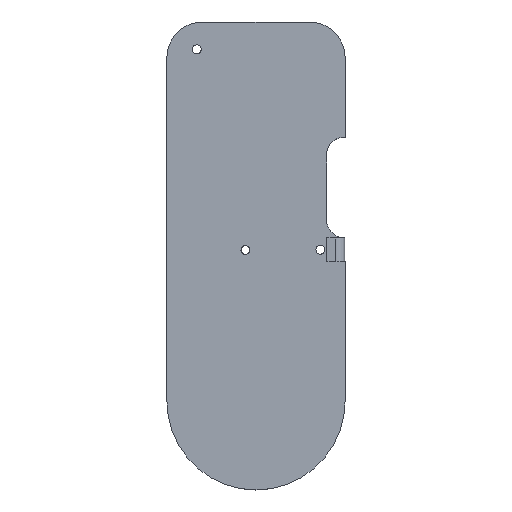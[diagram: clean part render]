
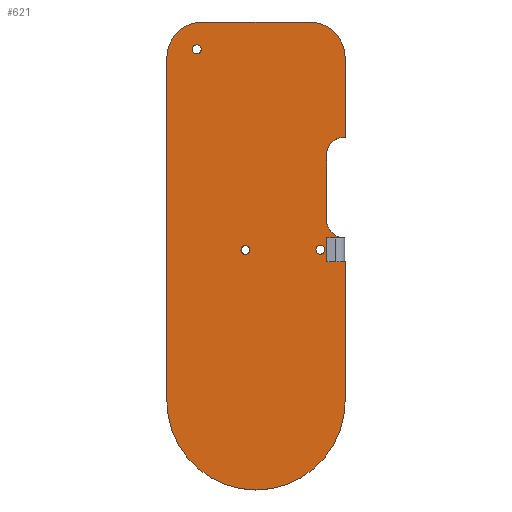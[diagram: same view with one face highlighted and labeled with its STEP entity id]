
A CAD part, top view. The second image highlights one B-rep face of the part: STEP entity #621.
In plain terms, the highlighted planar face has unit normal (0, 0, 1).
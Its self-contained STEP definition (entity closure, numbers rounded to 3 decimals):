
#26=FACE_BOUND('',#102,.T.);
#27=FACE_BOUND('',#103,.T.);
#28=FACE_BOUND('',#104,.T.);
#41=PLANE('',#688);
#60=FACE_OUTER_BOUND('',#101,.T.);
#101=EDGE_LOOP('',(#485,#486,#487,#488,#489,#490,#491,#492,#493,#494,#495,
#496,#497,#498,#499));
#102=EDGE_LOOP('',(#500));
#103=EDGE_LOOP('',(#501));
#104=EDGE_LOOP('',(#502));
#135=LINE('',#976,#187);
#146=LINE('',#1016,#198);
#154=LINE('',#1033,#206);
#156=LINE('',#1037,#208);
#157=LINE('',#1040,#209);
#159=LINE('',#1045,#211);
#160=LINE('',#1048,#212);
#161=LINE('',#1052,#213);
#162=LINE('',#1056,#214);
#163=LINE('',#1059,#215);
#187=VECTOR('',#755,10.);
#198=VECTOR('',#790,10.);
#206=VECTOR('',#806,10.);
#208=VECTOR('',#812,10.);
#209=VECTOR('',#815,10.);
#211=VECTOR('',#821,10.);
#212=VECTOR('',#824,10.);
#213=VECTOR('',#827,10.);
#214=VECTOR('',#830,10.);
#215=VECTOR('',#833,10.);
#235=CIRCLE('',#661,5.);
#236=CIRCLE('',#663,5.);
#247=CIRCLE('',#689,10.);
#248=CIRCLE('',#690,10.);
#249=CIRCLE('',#691,25.);
#250=CIRCLE('',#692,1.25);
#251=CIRCLE('',#693,1.25);
#252=CIRCLE('',#694,1.25);
#269=VERTEX_POINT('',#937);
#270=VERTEX_POINT('',#939);
#274=VERTEX_POINT('',#964);
#275=VERTEX_POINT('',#966);
#278=VERTEX_POINT('',#974);
#295=VERTEX_POINT('',#1015);
#297=VERTEX_POINT('',#1021);
#300=VERTEX_POINT('',#1031);
#301=VERTEX_POINT('',#1039);
#303=VERTEX_POINT('',#1047);
#304=VERTEX_POINT('',#1049);
#305=VERTEX_POINT('',#1051);
#306=VERTEX_POINT('',#1053);
#307=VERTEX_POINT('',#1055);
#308=VERTEX_POINT('',#1057);
#309=VERTEX_POINT('',#1060);
#310=VERTEX_POINT('',#1062);
#311=VERTEX_POINT('',#1064);
#325=EDGE_CURVE('',#270,#269,#235,.F.);
#330=EDGE_CURVE('',#274,#275,#236,.T.);
#335=EDGE_CURVE('',#274,#278,#135,.T.);
#355=EDGE_CURVE('',#295,#270,#146,.T.);
#364=EDGE_CURVE('',#297,#300,#154,.T.);
#366=EDGE_CURVE('',#300,#295,#156,.T.);
#367=EDGE_CURVE('',#301,#297,#157,.T.);
#370=EDGE_CURVE('',#269,#275,#159,.T.);
#371=EDGE_CURVE('',#278,#303,#160,.T.);
#372=EDGE_CURVE('',#303,#304,#247,.T.);
#373=EDGE_CURVE('',#304,#305,#161,.T.);
#374=EDGE_CURVE('',#305,#306,#248,.T.);
#375=EDGE_CURVE('',#306,#307,#162,.T.);
#376=EDGE_CURVE('',#307,#308,#249,.T.);
#377=EDGE_CURVE('',#308,#301,#163,.T.);
#378=EDGE_CURVE('',#309,#309,#250,.T.);
#379=EDGE_CURVE('',#310,#310,#251,.T.);
#380=EDGE_CURVE('',#311,#311,#252,.T.);
#485=ORIENTED_EDGE('',*,*,#367,.T.);
#486=ORIENTED_EDGE('',*,*,#364,.T.);
#487=ORIENTED_EDGE('',*,*,#366,.T.);
#488=ORIENTED_EDGE('',*,*,#355,.T.);
#489=ORIENTED_EDGE('',*,*,#325,.T.);
#490=ORIENTED_EDGE('',*,*,#370,.T.);
#491=ORIENTED_EDGE('',*,*,#330,.F.);
#492=ORIENTED_EDGE('',*,*,#335,.T.);
#493=ORIENTED_EDGE('',*,*,#371,.T.);
#494=ORIENTED_EDGE('',*,*,#372,.T.);
#495=ORIENTED_EDGE('',*,*,#373,.T.);
#496=ORIENTED_EDGE('',*,*,#374,.T.);
#497=ORIENTED_EDGE('',*,*,#375,.T.);
#498=ORIENTED_EDGE('',*,*,#376,.T.);
#499=ORIENTED_EDGE('',*,*,#377,.T.);
#500=ORIENTED_EDGE('',*,*,#378,.T.);
#501=ORIENTED_EDGE('',*,*,#379,.T.);
#502=ORIENTED_EDGE('',*,*,#380,.T.);
#621=ADVANCED_FACE('',(#60,#26,#27,#28),#41,.T.);
#661=AXIS2_PLACEMENT_3D('',#940,#739,#740);
#663=AXIS2_PLACEMENT_3D('',#967,#745,#746);
#688=AXIS2_PLACEMENT_3D('',#1046,#822,#823);
#689=AXIS2_PLACEMENT_3D('',#1050,#825,#826);
#690=AXIS2_PLACEMENT_3D('',#1054,#828,#829);
#691=AXIS2_PLACEMENT_3D('',#1058,#831,#832);
#692=AXIS2_PLACEMENT_3D('',#1061,#834,#835);
#693=AXIS2_PLACEMENT_3D('',#1063,#836,#837);
#694=AXIS2_PLACEMENT_3D('',#1065,#838,#839);
#739=DIRECTION('center_axis',(0.,0.,1.));
#740=DIRECTION('ref_axis',(-0.705,-0.709,0.));
#745=DIRECTION('center_axis',(0.,0.,1.));
#746=DIRECTION('ref_axis',(-0.709,0.705,0.));
#755=DIRECTION('',(1.,0.002,0.));
#790=DIRECTION('',(1.,0.002,0.));
#806=DIRECTION('',(-1.,-0.002,0.));
#812=DIRECTION('',(-0.002,1.,0.));
#815=DIRECTION('',(-1.,-0.002,0.));
#821=DIRECTION('',(-0.002,1.,0.));
#822=DIRECTION('center_axis',(0.,0.,1.));
#823=DIRECTION('ref_axis',(1.,0.,0.));
#824=DIRECTION('',(0.,1.,0.));
#825=DIRECTION('center_axis',(0.,0.,1.));
#826=DIRECTION('ref_axis',(1.,0.,0.));
#827=DIRECTION('',(-1.,0.,0.));
#828=DIRECTION('center_axis',(0.,0.,1.));
#829=DIRECTION('ref_axis',(0.,1.,0.));
#830=DIRECTION('',(0.,-1.,0.));
#831=DIRECTION('center_axis',(0.,0.,1.));
#832=DIRECTION('ref_axis',(1.,0.,0.));
#833=DIRECTION('',(0.,1.,0.));
#834=DIRECTION('center_axis',(0.,0.,-1.));
#835=DIRECTION('ref_axis',(-1.,0.,0.));
#836=DIRECTION('center_axis',(0.,0.,-1.));
#837=DIRECTION('ref_axis',(-1.,0.,0.));
#838=DIRECTION('center_axis',(0.,0.,-1.));
#839=DIRECTION('ref_axis',(-1.,0.,0.));
#937=CARTESIAN_POINT('',(29.912,50.692,5.));
#939=CARTESIAN_POINT('',(34.924,45.704,5.));
#940=CARTESIAN_POINT('Origin',(34.912,50.704,5.));
#964=CARTESIAN_POINT('',(34.857,74.014,5.));
#966=CARTESIAN_POINT('',(29.869,69.002,5.));
#967=CARTESIAN_POINT('Origin',(34.869,69.014,5.));
#974=CARTESIAN_POINT('',(35.076,74.014,5.));
#976=CARTESIAN_POINT('',(21.392,73.982,5.));
#1015=CARTESIAN_POINT('',(29.924,45.692,5.));
#1016=CARTESIAN_POINT('',(29.924,45.692,5.));
#1021=CARTESIAN_POINT('',(34.94,39.014,5.));
#1031=CARTESIAN_POINT('',(29.94,39.002,5.));
#1033=CARTESIAN_POINT('',(21.475,38.982,5.));
#1037=CARTESIAN_POINT('',(29.938,39.854,5.));
#1039=CARTESIAN_POINT('',(35.076,39.014,5.));
#1040=CARTESIAN_POINT('',(21.475,38.982,5.));
#1045=CARTESIAN_POINT('',(29.938,39.854,5.));
#1046=CARTESIAN_POINT('Origin',(10.076,40.659,5.));
#1047=CARTESIAN_POINT('',(35.076,96.308,5.));
#1048=CARTESIAN_POINT('',(35.076,96.308,5.));
#1049=CARTESIAN_POINT('',(25.076,106.308,5.));
#1050=CARTESIAN_POINT('Origin',(25.076,96.308,5.));
#1051=CARTESIAN_POINT('',(-4.924,106.308,5.));
#1052=CARTESIAN_POINT('',(-4.924,106.308,5.));
#1053=CARTESIAN_POINT('',(-14.924,96.308,5.));
#1054=CARTESIAN_POINT('Origin',(-4.924,96.308,5.));
#1055=CARTESIAN_POINT('',(-14.924,0.009,5.));
#1056=CARTESIAN_POINT('',(-14.924,96.308,5.));
#1057=CARTESIAN_POINT('',(35.076,0.009,5.));
#1058=CARTESIAN_POINT('Origin',(10.076,0.009,5.));
#1059=CARTESIAN_POINT('',(35.076,96.308,5.));
#1060=CARTESIAN_POINT('',(-5.281,98.658,5.));
#1061=CARTESIAN_POINT('Origin',(-6.531,98.658,5.));
#1062=CARTESIAN_POINT('',(8.361,42.319,5.));
#1063=CARTESIAN_POINT('Origin',(7.111,42.319,5.));
#1064=CARTESIAN_POINT('',(29.397,42.423,5.));
#1065=CARTESIAN_POINT('Origin',(28.147,42.423,5.));
